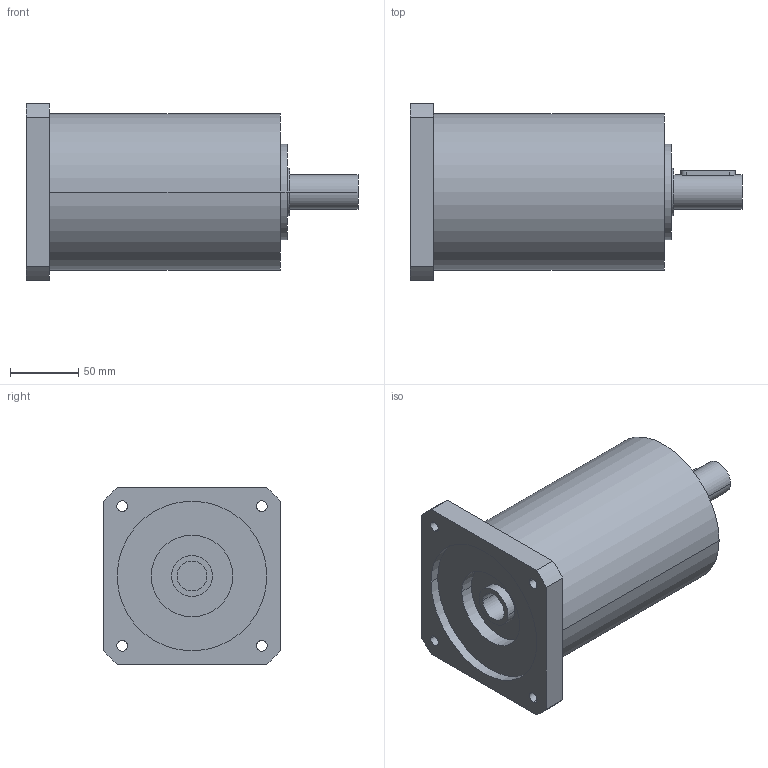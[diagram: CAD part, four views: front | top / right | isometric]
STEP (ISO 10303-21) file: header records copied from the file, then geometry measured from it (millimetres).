
FILE_DESCRIPTION(('CoCreate Modeling STEP Export'),'2;1');
FILE_NAME('GPR125_ig-9-12-16-20-28-35_25_B14_22_P12.stp','2014-08-26T14:11:02',(''),(''),'CoCreate Modeling STEP processor for AP214 (Solid Model)','CoCreate Modeling 16.00C 25-Feb-2009 (C) Parametric Technology GmbH','');
FILE_SCHEMA(('AUTOMOTIVE_DESIGN { 1 0 10303 214 1 1 1 1 }'));
Length unit declared in the file: millimetre
Products named in the file (2): GPR125_ig-9-12-16-20-28-35_25_B14_22_P12
Assembly tree (1 placements, depth 2):
  GPR125_ig-9-12-16-20-28-35_25_B14_22_P12
    GPR125_ig-9-12-16-20-28-35_25_B14_22_P12
Bounding box: 244 x 130 x 130 mm (x, y, z)
Volume: 1976663.9 mm3; surface area: 121754.8 mm2
Topology: 1 solids, 1 shells, 65 faces, 178 edges, 126 vertices
Faces by surface type: cylinder 40, plane 21, cone 4
Entity records: 1843 total; most frequent: ORIENTED_EDGE 352, CARTESIAN_POINT 349, DIRECTION 248, EDGE_CURVE 176, VERTEX_POINT 126, AXIS2_PLACEMENT_3D 93, EDGE_LOOP 86, FACE_OUTER_BOUND 65
